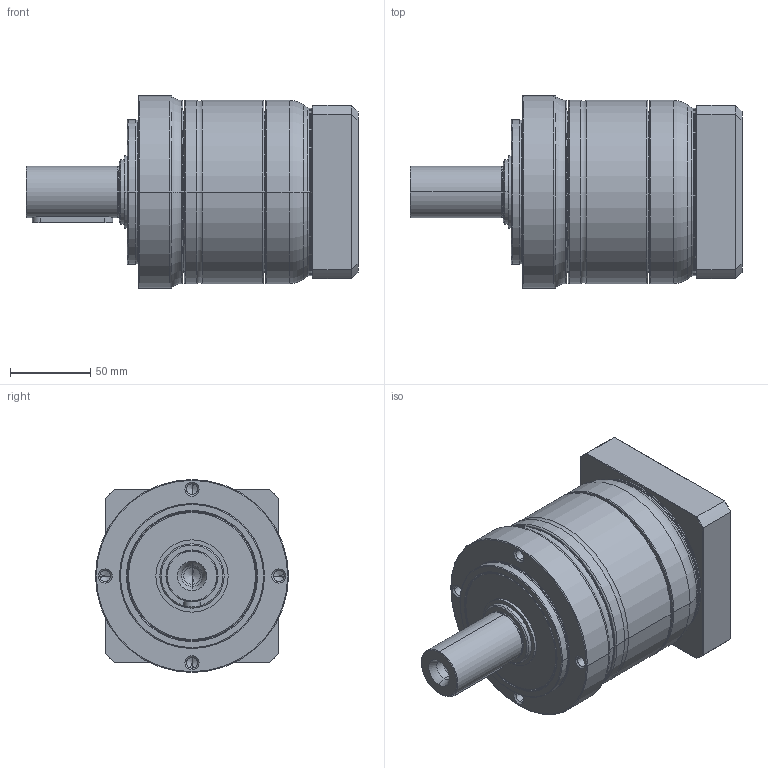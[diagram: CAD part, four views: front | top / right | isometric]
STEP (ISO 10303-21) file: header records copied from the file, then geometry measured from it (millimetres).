
FILE_DESCRIPTION((''),'2;1');
FILE_NAME('PE2-120_1ST_28-P0411600101_ASM','2017-05-31T',('d01943'),(''),'PRO/ENGINEER BY PARAMETRIC TECHNOLOGY CORPORATION, 2008410','PRO/ENGINEER BY PARAMETRIC TECHNOLOGY CORPORATION, 2008410','');
FILE_SCHEMA(('CONFIG_CONTROL_DESIGN'));
Length unit declared in the file: millimetre
Products named in the file (9): P1323410001; P0250400001; P1324400201; P0350401001; P0941402001; P0503600008; P0411600101; P1702500001; PE2-120_1ST_28-P0411600101_ASM
Assembly tree (8 placements, depth 2):
  PE2-120_1ST_28-P0411600101_ASM
    P1323410001
    P0250400001
    P1324400201
    P0350401001
    P0941402001
    P0503600008
    P0411600101
    P1702500001
Bounding box: 206.5 x 120 x 120 mm (x, y, z)
Volume: 1171281.4 mm3; surface area: 214593.6 mm2
Topology: 8 solids, 8 shells, 465 faces, 1019 edges, 584 vertices
Faces by surface type: cone 138, cylinder 136, torus 98, plane 77, bspline 16
Entity records: 17318 total; most frequent: CARTESIAN_POINT 6890, DIRECTION 2377, ORIENTED_EDGE 1974, AXIS2_PLACEMENT_3D 1021, EDGE_CURVE 987, VERTEX_POINT 584, CIRCLE 555, EDGE_LOOP 527
